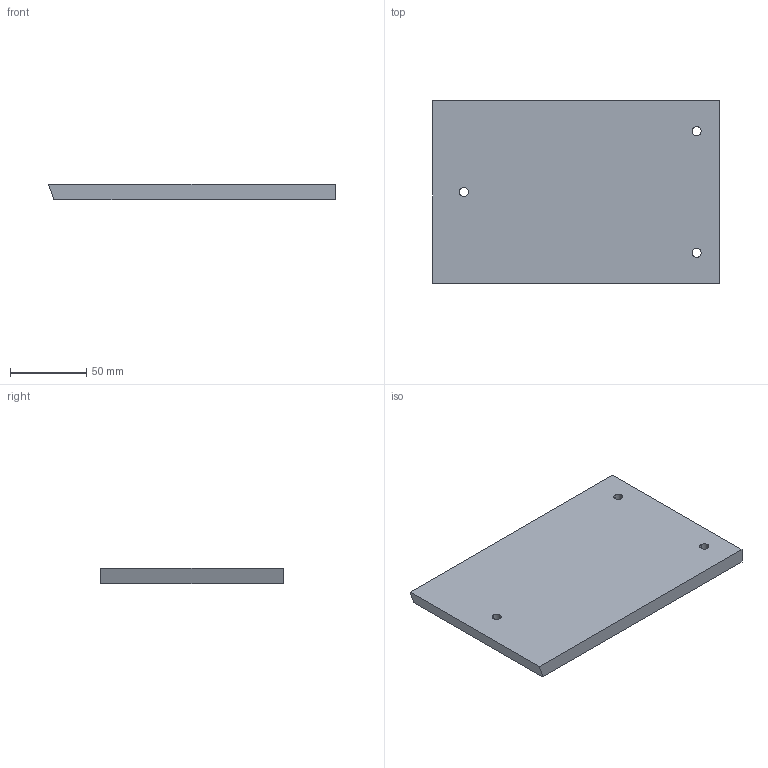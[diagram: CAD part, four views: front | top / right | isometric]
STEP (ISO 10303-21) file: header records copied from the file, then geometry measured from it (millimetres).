
FILE_DESCRIPTION(('STEP AP214'),'1');
FILE_NAME('tmp0.step','2025-04-01T11:55:26',(' '),(' '),'Spatial InterOp 3D',' ',' ');
FILE_SCHEMA(('AUTOMOTIVE_DESIGN { 1 0 10303 214 1 1 1 1 }'));
Length unit declared in the file: millimetre
Products named in the file (1): 1
Bounding box: 188.5 x 120 x 10 mm (x, y, z)
Volume: 222595 mm3; surface area: 51352.8 mm2
Topology: 1 solids, 1 shells, 18 faces, 48 edges, 32 vertices
Faces by surface type: cylinder 6, cone 6, plane 6
Entity records: 613 total; most frequent: DIRECTION 110, CARTESIAN_POINT 99, ORIENTED_EDGE 96, EDGE_CURVE 48, AXIS2_PLACEMENT_3D 43, VERTEX_POINT 32, EDGE_LOOP 24, LINE 24
